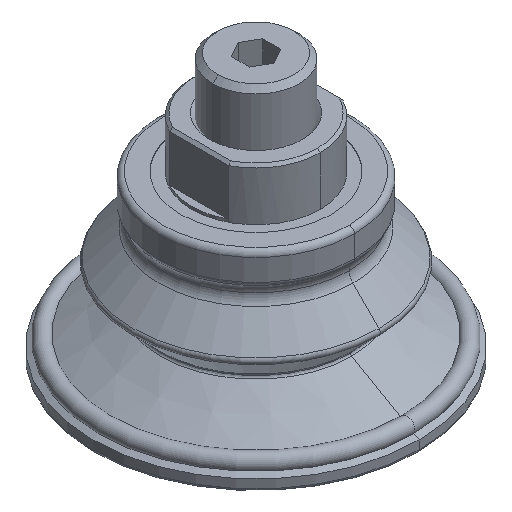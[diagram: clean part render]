
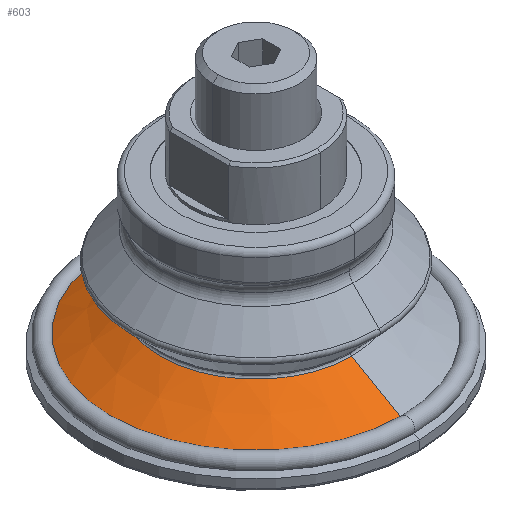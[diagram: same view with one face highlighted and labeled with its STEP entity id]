
A CAD part, isometric view. The second image highlights one B-rep face of the part: STEP entity #603.
In plain terms, the highlighted conical face has half-angle 60 degrees and reference radius 18.507 mm.
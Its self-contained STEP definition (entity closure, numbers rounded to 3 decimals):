
#37 = CARTESIAN_POINT ( 'NONE',  ( 0., 0., -36.938 ) ) ;
#150 = CARTESIAN_POINT ( 'NONE',  ( 0., 18.507, -31.514 ) ) ;
#403 = CARTESIAN_POINT ( 'NONE',  ( 0., 18.507, -31.514 ) ) ;
#427 = ORIENTED_EDGE ( 'NONE', *, *, #772, .F. ) ;
#463 = LINE ( 'NONE', #150, #908 ) ;
#603 = ADVANCED_FACE ( 'NONE', ( #685 ), #1589, .T. ) ;
#637 = VERTEX_POINT ( 'NONE', #1918 ) ;
#685 = FACE_OUTER_BOUND ( 'NONE', #2697, .T. ) ;
#761 = DIRECTION ( 'NONE',  ( 0., -0.866, -0.5 ) ) ;
#772 = EDGE_CURVE ( 'NONE', #1016, #1378, #2447, .T. ) ;
#796 = ORIENTED_EDGE ( 'NONE', *, *, #1291, .T. ) ;
#809 = VECTOR ( 'NONE', #761, 1000. ) ;
#908 = VECTOR ( 'NONE', #1814, 1000. ) ;
#958 = DIRECTION ( 'NONE',  ( 0., 0., -1. ) ) ;
#975 = ORIENTED_EDGE ( 'NONE', *, *, #2128, .F. ) ;
#1016 = VERTEX_POINT ( 'NONE', #2264 ) ;
#1157 = DIRECTION ( 'NONE',  ( 0., 0., -1. ) ) ;
#1241 = CARTESIAN_POINT ( 'NONE',  ( 0., -18.507, -31.514 ) ) ;
#1291 = EDGE_CURVE ( 'NONE', #2316, #637, #463, .T. ) ;
#1378 = VERTEX_POINT ( 'NONE', #2409 ) ;
#1409 = AXIS2_PLACEMENT_3D ( 'NONE', #37, #958, #1467 ) ;
#1455 = CIRCLE ( 'NONE', #1854, 18.507 ) ;
#1467 = DIRECTION ( 'NONE',  ( 0., -1., 0. ) ) ;
#1589 = CONICAL_SURFACE ( 'NONE', #1989, 18.507, 1.047 ) ;
#1632 = CARTESIAN_POINT ( 'NONE',  ( 0., 0., -31.514 ) ) ;
#1814 = DIRECTION ( 'NONE',  ( 0., 0.866, -0.5 ) ) ;
#1854 = AXIS2_PLACEMENT_3D ( 'NONE', #2931, #2308, #2970 ) ;
#1918 = CARTESIAN_POINT ( 'NONE',  ( 0., 27.902, -36.938 ) ) ;
#1989 = AXIS2_PLACEMENT_3D ( 'NONE', #1632, #1157, #2574 ) ;
#2097 = CIRCLE ( 'NONE', #1409, 27.902 ) ;
#2128 = EDGE_CURVE ( 'NONE', #1378, #637, #2097, .T. ) ;
#2264 = CARTESIAN_POINT ( 'NONE',  ( 0., -18.507, -31.514 ) ) ;
#2308 = DIRECTION ( 'NONE',  ( 0., 0., -1. ) ) ;
#2316 = VERTEX_POINT ( 'NONE', #403 ) ;
#2369 = EDGE_CURVE ( 'NONE', #1016, #2316, #1455, .T. ) ;
#2409 = CARTESIAN_POINT ( 'NONE',  ( 0., -27.902, -36.938 ) ) ;
#2447 = LINE ( 'NONE', #1241, #809 ) ;
#2574 = DIRECTION ( 'NONE',  ( 0., -1., 0. ) ) ;
#2697 = EDGE_LOOP ( 'NONE', ( #3040, #796, #975, #427 ) ) ;
#2931 = CARTESIAN_POINT ( 'NONE',  ( 0., 0., -31.514 ) ) ;
#2970 = DIRECTION ( 'NONE',  ( 0., -1., 0. ) ) ;
#3040 = ORIENTED_EDGE ( 'NONE', *, *, #2369, .T. ) ;
